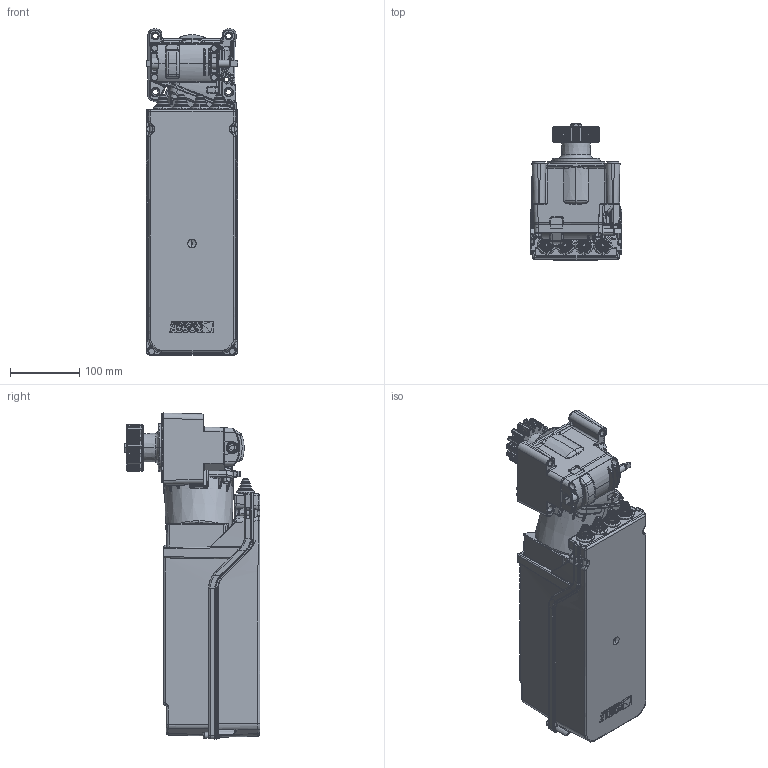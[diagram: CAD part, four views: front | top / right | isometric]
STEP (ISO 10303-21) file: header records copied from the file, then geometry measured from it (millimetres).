
FILE_DESCRIPTION (( 'STEP AP203' ), '1' );
FILE_NAME ('TW90 CENTRALE INTEGRATA - VOLUMETRICO.STEP', '2023-10-10T12:57:03', ( '' ), ( '' ), 'SwSTEP 2.0', 'SolidWorks 2021', '' );
FILE_SCHEMA (( 'CONFIG_CONTROL_DESIGN' ));
Products named in the file (1): TW90 CENTRALE INTEGRATA - VOLUMETRICO
Bounding box: 132 x 195.6 x 470 mm (x, y, z)
Volume: 6761935.1 mm3; surface area: 371071.3 mm2
Topology: 1 solids, 15 shells, 3908 faces, 9718 edges, 5891 vertices
Faces by surface type: bspline 1388, cylinder 1115, plane 930, cone 296, torus 146, sphere 33
Entity records: 178857 total; most frequent: CARTESIAN_POINT 96498, ORIENTED_EDGE 19294, DIRECTION 14488, EDGE_CURVE 9647, VERTEX_POINT 5884, AXIS2_PLACEMENT_3D 5573, EDGE_LOOP 4043, FACE_OUTER_BOUND 3908
